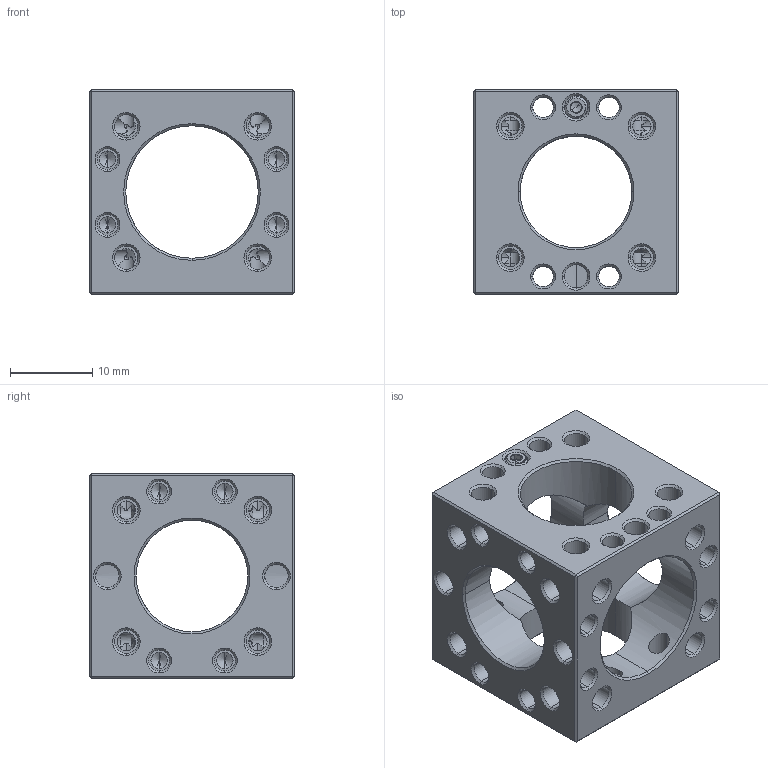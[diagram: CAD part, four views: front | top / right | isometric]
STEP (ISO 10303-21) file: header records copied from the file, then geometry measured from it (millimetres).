
FILE_DESCRIPTION (( 'STEP AP203' ), '1' );
FILE_NAME ('13482-E0W.STEP', '2017-01-12T13:52:48', ( 'admin' ), ( '' ), 'SwSTEP 2.0', 'SolidWorks 2016', '' );
FILE_SCHEMA (( 'CONFIG_CONTROL_DESIGN' ));
Length unit declared in the file: inch
Products named in the file (1): 13482-E0W
Bounding box: 24.99 x 24.99 x 24.99 mm (x, y, z)
Volume: 6193.4 mm3; surface area: 6010.3 mm2
Topology: 2 solids, 2 shells, 546 faces, 1346 edges, 790 vertices
Faces by surface type: cone 239, cylinder 218, plane 89
Entity records: 17613 total; most frequent: CARTESIAN_POINT 4951, DIRECTION 2656, ORIENTED_EDGE 2592, EDGE_CURVE 1296, AXIS2_PLACEMENT_3D 1073, VERTEX_POINT 790, EDGE_LOOP 648, ADVANCED_FACE 546
